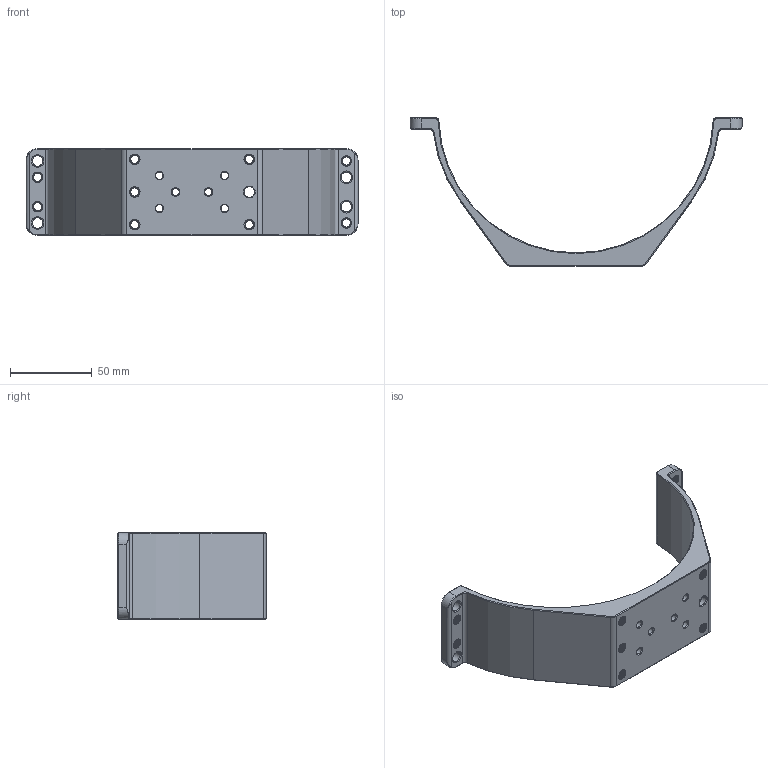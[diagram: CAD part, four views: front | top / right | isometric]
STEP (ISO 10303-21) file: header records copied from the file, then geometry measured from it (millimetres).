
FILE_DESCRIPTION (( 'STEP AP214' ), '1' );
FILE_NAME ('WTE6-M-CLAMP.STEP', '2024-03-20T16:45:19', ( '' ), ( '' ), 'SwSTEP 2.0', 'SolidWorks 2024', '' );
FILE_SCHEMA (( 'AUTOMOTIVE_DESIGN' ));
Length unit declared in the file: millimetre
Products named in the file (1): WTE6-M-CLAMP
Bounding box: 203.1 x 90.6 x 53 mm (x, y, z)
Volume: 106919.4 mm3; surface area: 40406.1 mm2
Topology: 1 solids, 1 shells, 371 faces, 1002 edges, 640 vertices
Faces by surface type: cylinder 171, cone 98, bspline 64, plane 38
Entity records: 71223 total; most frequent: CARTESIAN_POINT 62948, ORIENTED_EDGE 1996, DIRECTION 1405, EDGE_CURVE 998, VERTEX_POINT 640, AXIS2_PLACEMENT_3D 545, EDGE_LOOP 422, ADVANCED_FACE 371
